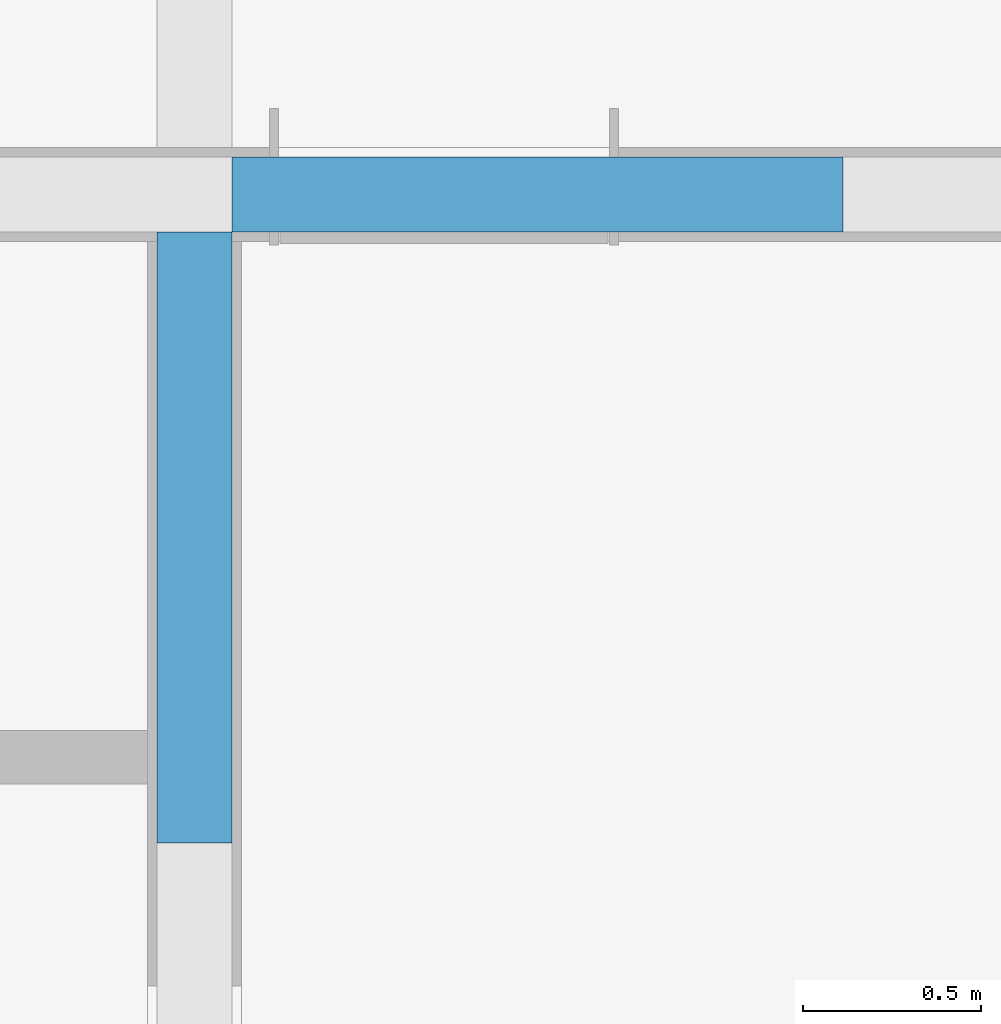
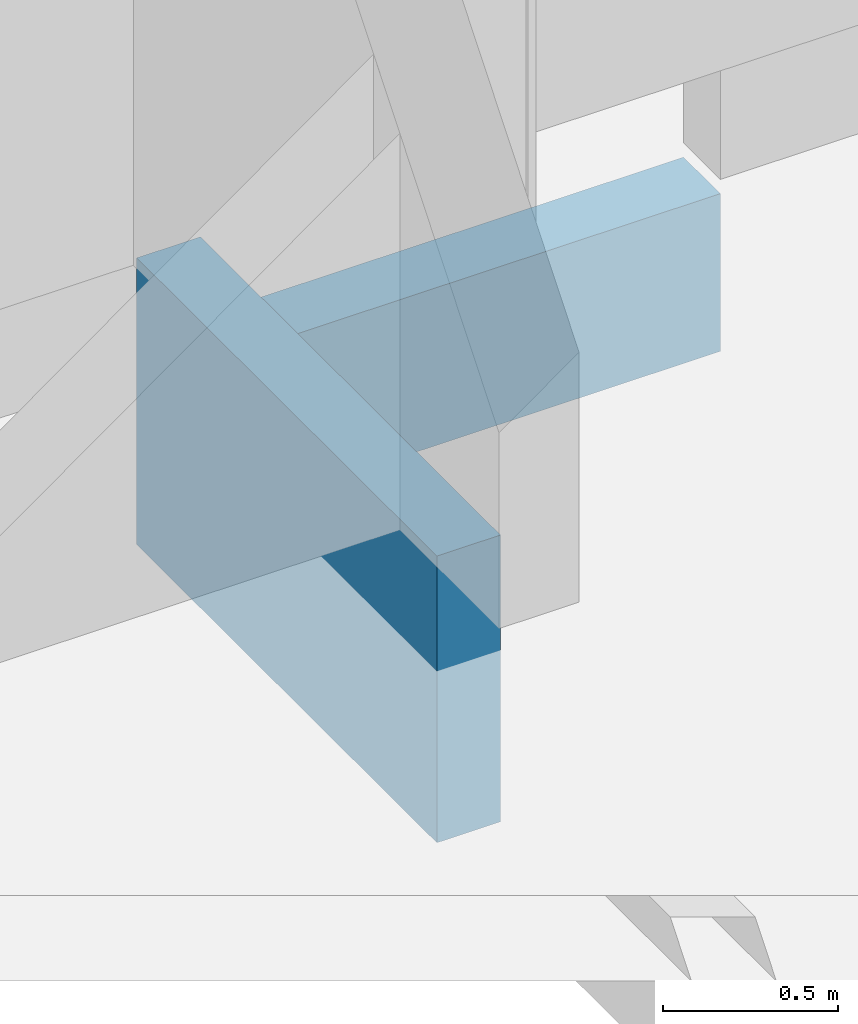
# One storey, part 15 of 22: 2 walls.
"""IFC4X3 building model written with IfcOpenShell, lengths in millimetres."""

from ifc_helpers import new_model, entity, si_unit, converted_unit, derived_unit, direction, frame, frame_2d, origin, place, context, subcontext, project, spatial, rectangle, extrude, material, layer, layer_set, type_object, element, save


model = new_model("IFC4X3")

# Units and contexts
model_context = context("Model", 3, precision=0.01, world=origin(), true_north=direction((6.12303176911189e-17, 1.0)))
body_context = subcontext(model_context, "Body", "Model", "MODEL_VIEW")
ifc_project = project(units=[si_unit("LENGTHUNIT", "METRE", prefix="MILLI"), si_unit("AREAUNIT", "SQUARE_METRE"), si_unit("VOLUMEUNIT", "CUBIC_METRE"), converted_unit("PLANEANGLEUNIT", "DEGREE", entity("IfcPlaneAngleMeasure", 0.0174532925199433), si_unit("PLANEANGLEUNIT", "RADIAN"), dimensions=[0, 0, 0, 0, 0, 0, 0]), si_unit("MASSUNIT", "GRAM", prefix="KILO"), derived_unit("MASSDENSITYUNIT", [(si_unit("MASSUNIT", "GRAM", prefix="KILO"), 1), (si_unit("LENGTHUNIT", "METRE"), -3)]), derived_unit("IONCONCENTRATIONUNIT", [(si_unit("MASSUNIT", "GRAM", prefix="KILO"), 1), (si_unit("LENGTHUNIT", "METRE"), -3)]), derived_unit("MOMENTOFINERTIAUNIT", [(si_unit("LENGTHUNIT", "METRE"), 4)]), si_unit("TIMEUNIT", "SECOND"), si_unit("FREQUENCYUNIT", "HERTZ"), si_unit("THERMODYNAMICTEMPERATUREUNIT", "DEGREE_CELSIUS"), derived_unit("THERMALTRANSMITTANCEUNIT", [(si_unit("MASSUNIT", "GRAM", prefix="KILO"), 1), (si_unit("THERMODYNAMICTEMPERATUREUNIT", "KELVIN"), -1), (si_unit("TIMEUNIT", "SECOND"), -3)]), derived_unit("THERMALCONDUCTANCEUNIT", [(si_unit("MASSUNIT", "GRAM", prefix="KILO"), 1), (si_unit("THERMODYNAMICTEMPERATUREUNIT", "KELVIN"), -1), (si_unit("TIMEUNIT", "SECOND"), -3), (si_unit("LENGTHUNIT", "METRE"), 1)]), derived_unit("VOLUMETRICFLOWRATEUNIT", [(si_unit("LENGTHUNIT", "METRE", prefix="DECI"), 3), (si_unit("TIMEUNIT", "SECOND"), -1)]), derived_unit("MASSFLOWRATEUNIT", [(si_unit("MASSUNIT", "GRAM", prefix="KILO"), 1), (si_unit("TIMEUNIT", "SECOND"), -1)]), derived_unit("ROTATIONALFREQUENCYUNIT", [(si_unit("TIMEUNIT", "SECOND"), -1)]), si_unit("ELECTRICCURRENTUNIT", "AMPERE"), si_unit("ELECTRICVOLTAGEUNIT", "VOLT"), si_unit("POWERUNIT", "WATT"), si_unit("FORCEUNIT", "NEWTON", prefix="KILO"), si_unit("ILLUMINANCEUNIT", "LUX"), si_unit("LUMINOUSFLUXUNIT", "LUMEN"), si_unit("LUMINOUSINTENSITYUNIT", "CANDELA"), si_unit("ENERGYUNIT", "JOULE"), derived_unit("USERDEFINED", [(si_unit("MASSUNIT", "GRAM", prefix="KILO"), -1), (si_unit("LENGTHUNIT", "METRE"), -2), (si_unit("TIMEUNIT", "SECOND"), 3), (si_unit("LUMINOUSFLUXUNIT", "LUMEN"), 1)]), derived_unit("USERDEFINED", [(si_unit("MASSUNIT", "GRAM", prefix="KILO"), 1), (si_unit("TIMEUNIT", "SECOND"), -3), (si_unit("LENGTHUNIT", "METRE"), 3), (si_unit("ELECTRICCURRENTUNIT", "AMPERE"), -2)]), derived_unit("SOUNDPOWERUNIT", [(si_unit("MASSUNIT", "GRAM", prefix="KILO"), 1), (si_unit("TIMEUNIT", "SECOND"), -3), (si_unit("LENGTHUNIT", "METRE"), 2)]), derived_unit("SOUNDPRESSUREUNIT", [(si_unit("MASSUNIT", "GRAM", prefix="KILO"), 1), (si_unit("LENGTHUNIT", "METRE"), -1), (si_unit("TIMEUNIT", "SECOND"), -2)]), derived_unit("LINEARVELOCITYUNIT", [(si_unit("LENGTHUNIT", "METRE"), 1), (si_unit("TIMEUNIT", "SECOND"), -1)]), si_unit("PRESSUREUNIT", "PASCAL"), derived_unit("USERDEFINED", [(si_unit("MASSUNIT", "GRAM", prefix="KILO"), 1), (si_unit("LENGTHUNIT", "METRE"), -2), (si_unit("TIMEUNIT", "SECOND"), -2)]), derived_unit("LINEARFORCEUNIT", [(si_unit("MASSUNIT", "GRAM", prefix="KILO"), 1), (si_unit("TIMEUNIT", "SECOND"), -2)]), derived_unit("PLANARFORCEUNIT", [(si_unit("MASSUNIT", "GRAM", prefix="KILO"), 1), (si_unit("LENGTHUNIT", "METRE"), -1), (si_unit("TIMEUNIT", "SECOND"), -2)]), derived_unit("SPECIFICHEATCAPACITYUNIT", [(si_unit("THERMODYNAMICTEMPERATUREUNIT", "KELVIN"), -1), (si_unit("LENGTHUNIT", "METRE"), 2), (si_unit("TIMEUNIT", "SECOND"), -2)]), derived_unit("HEATFLUXDENSITYUNIT", [(si_unit("MASSUNIT", "GRAM", prefix="KILO"), 1), (si_unit("TIMEUNIT", "SECOND"), -3)]), derived_unit("HEATINGVALUEUNIT", [(si_unit("LENGTHUNIT", "METRE"), 2), (si_unit("TIMEUNIT", "SECOND"), -2)]), derived_unit("VAPORPERMEABILITYUNIT", [(si_unit("LENGTHUNIT", "METRE"), -1), (si_unit("TIMEUNIT", "SECOND"), 1)]), derived_unit("DYNAMICVISCOSITYUNIT", [(si_unit("MASSUNIT", "GRAM", prefix="KILO"), 1), (si_unit("TIMEUNIT", "SECOND"), -1), (si_unit("LENGTHUNIT", "METRE"), -1)]), derived_unit("THERMALEXPANSIONCOEFFICIENTUNIT", [(si_unit("THERMODYNAMICTEMPERATUREUNIT", "KELVIN"), -1)]), derived_unit("MODULUSOFELASTICITYUNIT", [(si_unit("MASSUNIT", "GRAM", prefix="KILO"), 1), (si_unit("LENGTHUNIT", "METRE"), -1), (si_unit("TIMEUNIT", "SECOND"), -2)]), derived_unit("ISOTHERMALMOISTURECAPACITYUNIT", [(si_unit("MASSUNIT", "GRAM", prefix="KILO"), -1), (si_unit("LENGTHUNIT", "METRE"), 3)]), derived_unit("MOISTUREDIFFUSIVITYUNIT", [(si_unit("TIMEUNIT", "SECOND"), -1), (si_unit("LENGTHUNIT", "METRE"), 2)]), derived_unit("AREADENSITYUNIT", [(si_unit("MASSUNIT", "GRAM", prefix="KILO"), 1), (si_unit("LENGTHUNIT", "METRE"), 2)]), derived_unit("MASSPERLENGTHUNIT", [(si_unit("MASSUNIT", "GRAM", prefix="KILO"), 1), (si_unit("LENGTHUNIT", "METRE"), -1)]), derived_unit("THERMALRESISTANCEUNIT", [(si_unit("MASSUNIT", "GRAM", prefix="KILO"), -1), (si_unit("TIMEUNIT", "SECOND"), 3), (si_unit("THERMODYNAMICTEMPERATUREUNIT", "KELVIN"), 1)]), derived_unit("ACCELERATIONUNIT", [(si_unit("LENGTHUNIT", "METRE"), 1), (si_unit("TIMEUNIT", "SECOND"), -2)]), derived_unit("ANGULARVELOCITYUNIT", [(si_unit("TIMEUNIT", "SECOND"), -1), (si_unit("PLANEANGLEUNIT", "RADIAN"), 1)]), derived_unit("LINEARSTIFFNESSUNIT", [(si_unit("MASSUNIT", "GRAM", prefix="KILO"), 1), (si_unit("TIMEUNIT", "SECOND"), -2)]), derived_unit("WARPINGCONSTANTUNIT", [(si_unit("LENGTHUNIT", "METRE"), 6)]), derived_unit("LINEARMOMENTUNIT", [(si_unit("MASSUNIT", "GRAM", prefix="KILO"), 1), (si_unit("LENGTHUNIT", "METRE"), 1), (si_unit("TIMEUNIT", "SECOND"), -2)]), derived_unit("TORQUEUNIT", [(si_unit("MASSUNIT", "GRAM", prefix="KILO"), 1), (si_unit("LENGTHUNIT", "METRE"), 2), (si_unit("TIMEUNIT", "SECOND"), -2)])], contexts=[model_context])

# Site, building, storey
site_placement = place(None, origin())
site = spatial("IfcSite", under=ifc_project, at=site_placement, Name="Default", CompositionType="ELEMENT")
building_placement = place(site_placement, origin())
building = spatial("IfcBuilding", under=site, at=building_placement, Name="事務所ビル", CompositionType="ELEMENT")
storey_placement = place(building_placement, origin())
storey = spatial("IfcBuildingStorey", under=building, at=storey_placement, Name="1FL", CompositionType="ELEMENT", Elevation=0.0)

# Walls
ifc_material = material(Name="*コンクリート")
ifc_layer_1 = layer(ifc_material, 210.0, Name="*コンクリート")
ifc_layer_set_1 = layer_set([ifc_layer_1], Name="標準壁:(基礎梁)RC_w210h650")
wall_type_1 = type_object("IfcWallType", Name="標準壁:(基礎梁)RC_w210h650", PredefinedType="STANDARD", material=ifc_layer_set_1)
wall_1_placement = place(storey_placement, frame((32865.0, 5460.0, -600.0)))
element("IfcWall", 1, at=wall_1_placement, inside=storey, type_object=wall_type_1, material=ifc_layer_set_1, Name="標準壁:(基礎梁)RC_w210h650", ObjectType="標準壁:(基礎梁)RC_w210h650", PredefinedType="NOTDEFINED", context=body_context, shape_type="SweptSolid", body=[
    extrude(rectangle(XDim=1715.0, YDim=210.0, at=frame_2d((857.5, -1.56319401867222e-13), x_axis=(-1.0, 0.0))), origin(), (0.0, 0.0, 1.0), 550.0),
])
ifc_layer_2 = layer(ifc_material, 210.0, Name="*コンクリート")
ifc_layer_set_2 = layer_set([ifc_layer_2], Name="標準壁:(基礎梁)RC_w210h1000")
wall_type_2 = type_object("IfcWallType", Name="標準壁:(基礎梁)RC_w210h1000", PredefinedType="STANDARD", material=ifc_layer_set_2)
wall_2_placement = place(storey_placement, frame((32760.0, 5355.0, -600.0), z_axis=(0.0, 0.0, 1.0), x_axis=(0.0, -1.0, 0.0)))
element("IfcWall", 2, at=wall_2_placement, inside=storey, type_object=wall_type_2, material=ifc_layer_set_2, Name="標準壁:(基礎梁)RC_w210h1000", ObjectType="標準壁:(基礎梁)RC_w210h1000", PredefinedType="NOTDEFINED", context=body_context, shape_type="SweptSolid", body=[
    extrude(rectangle(XDim=1715.0, YDim=210.000000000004, at=frame_2d((857.499999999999, -1.27897692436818e-13), x_axis=(-1.0, 0.0))), origin(), (0.0, 0.0, 1.0), 1000.0),
])

save(model, "model.ifc")
